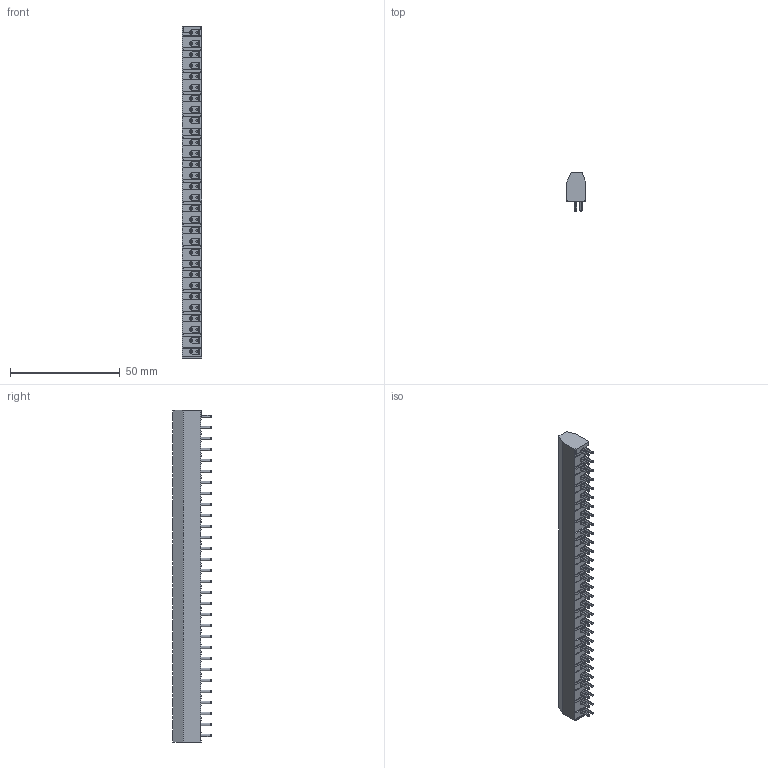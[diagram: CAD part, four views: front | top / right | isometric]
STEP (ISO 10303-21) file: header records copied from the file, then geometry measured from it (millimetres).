
FILE_DESCRIPTION (( 'STEP AP214' ), '1' );
FILE_NAME ('978-Y-DS-30.STEP', '2009-02-03T20:22:19', ( 'weco' ), ( 'weco' ), 'SwSTEP 2.0', 'SolidWorks 2007', '' );
FILE_SCHEMA (( 'AUTOMOTIVE_DESIGN' ));
Length unit declared in the file: millimetre
Products named in the file (1): 978-Y-DS-30
Bounding box: 9 x 17.4 x 151 mm (x, y, z)
Volume: 14013.1 mm3; surface area: 10611.8 mm2
Topology: 1 solids, 1 shells, 2803 faces, 8331 edges, 5454 vertices
Faces by surface type: plane 1962, cylinder 691, cone 150
Entity records: 95278 total; most frequent: CARTESIAN_POINT 19860, ORIENTED_EDGE 16662, DIRECTION 14869, EDGE_CURVE 8331, VECTOR 5779, LINE 5779, VERTEX_POINT 5454, AXIS2_PLACEMENT_3D 4545
